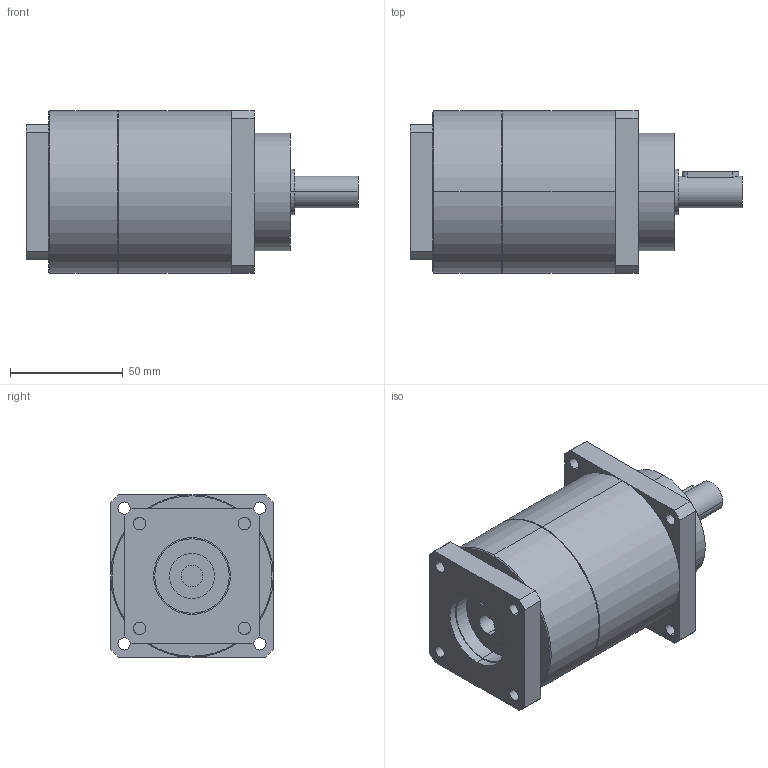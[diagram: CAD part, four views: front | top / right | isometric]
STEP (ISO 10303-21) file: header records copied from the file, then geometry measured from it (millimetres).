
FILE_DESCRIPTION(('CoCreate Modeling STEP Export'),'2;1');
FILE_NAME('GPT75_ig-9-12-16-20-25-28-35-40-50-70-100_14_B5T_9.52_P26.stp','2014-08-27T13:43:22',(''),(''),'CoCreate Modeling STEP processor for AP214 (Solid Model)','CoCreate Modeling 16.00C 25-Feb-2009 (C) Parametric Technology GmbH','');
FILE_SCHEMA(('AUTOMOTIVE_DESIGN { 1 0 10303 214 1 1 1 1 }'));
Length unit declared in the file: millimetre
Products named in the file (2): GPT75_ig-9-12-16-20-25-28-35-40-50-70-100_14_B5T_9.52_P26
Assembly tree (1 placements, depth 2):
  GPT75_ig-9-12-16-20-25-28-35-40-50-70-100_14_B5T_9.52_P26
    GPT75_ig-9-12-16-20-25-28-35-40-50-70-100_14_B5T_9.52_P26
Bounding box: 147 x 72 x 72 mm (x, y, z)
Volume: 444221.4 mm3; surface area: 41921.9 mm2
Topology: 1 solids, 1 shells, 88 faces, 211 edges, 134 vertices
Faces by surface type: cylinder 46, plane 38, cone 4
Entity records: 2589 total; most frequent: CARTESIAN_POINT 729, ORIENTED_EDGE 422, DIRECTION 326, EDGE_CURVE 211, VERTEX_POINT 134, AXIS2_PLACEMENT_3D 119, EDGE_LOOP 109, VECTOR 88
